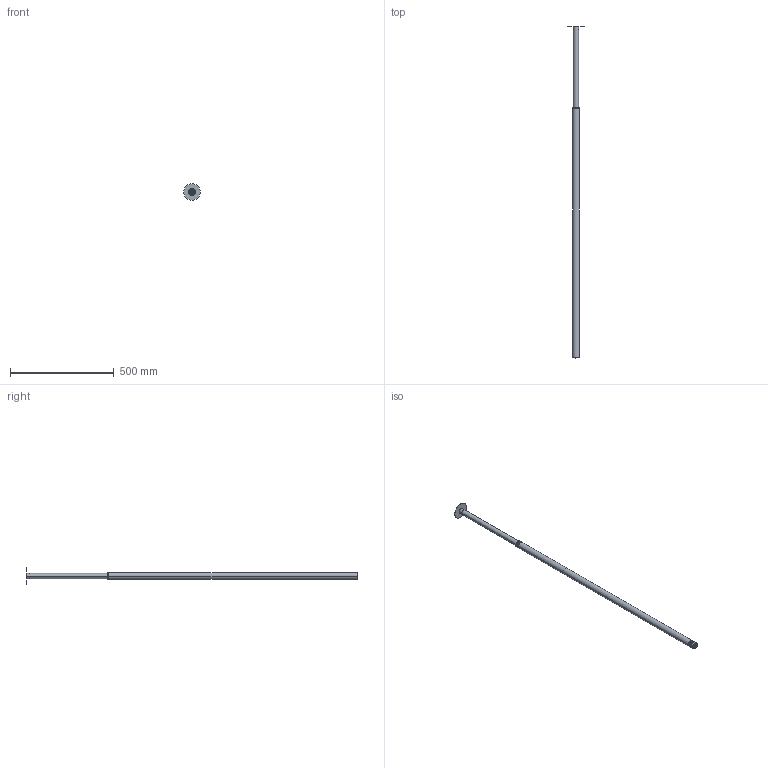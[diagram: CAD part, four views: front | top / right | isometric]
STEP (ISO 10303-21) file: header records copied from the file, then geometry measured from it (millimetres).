
FILE_DESCRIPTION((''),'2;1');
FILE_NAME('BOCCA_SOFFITTO','2014-02-04T',('ivanv'),(''),'PRO/ENGINEER BY PARAMETRIC TECHNOLOGY CORPORATION, 2012130','PRO/ENGINEER BY PARAMETRIC TECHNOLOGY CORPORATION, 2012130','');
FILE_SCHEMA(('CONFIG_CONTROL_DESIGN'));
Length unit declared in the file: millimetre
Products named in the file (1): BOCCA_SOFFITTO
Bounding box: 80 x 1601.98 x 80 mm (x, y, z)
Volume: 356175.8 mm3; surface area: 346486.7 mm2
Topology: 2 solids, 4 shells, 148 faces, 322 edges, 199 vertices
Faces by surface type: cylinder 64, plane 42, cone 32, torus 8, sphere 2
Entity records: 4546 total; most frequent: CARTESIAN_POINT 1147, DIRECTION 766, ORIENTED_EDGE 640, EDGE_CURVE 320, AXIS2_PLACEMENT_3D 318, VERTEX_POINT 199, EDGE_LOOP 179, CIRCLE 170
